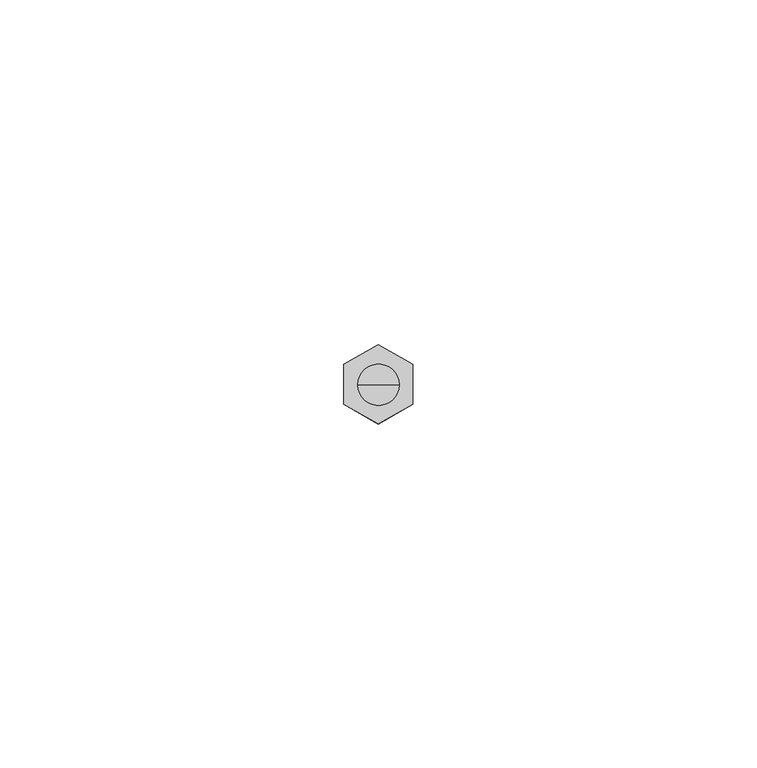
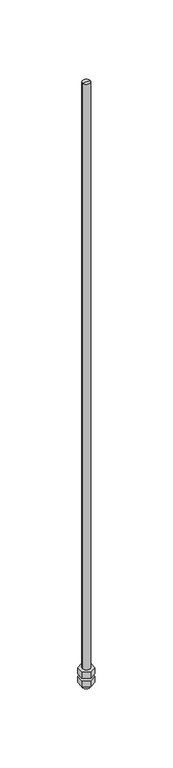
"""IFC4 building model written with IfcOpenShell, lengths in millimetres: proxy geometry, durlum_threaded_rod_M6 : durlum_threaded_rod_M6."""

from ifc_helpers import new_model, si_unit, frame, origin, origin_with_axes, place, context, project, spatial, polyline, circle_curve, outline, extrude, source, transform, mapped, element, save
from ifc_brep_helpers import plane_surface, cylinder_surface, advanced_brep


def generic_models_2a6b3d05(model_context):
    return source(origin(), model_context, "Body", "SolidModel", [
        extrude(outline(polyline([(5.0, 3.0421914), (5.0, -2.7313113), (0.0, -5.6180626), (-5.0, -2.7313113), (-5.0, 3.0421914), (0.0, 5.9289428), (5.0, 3.0421914)])), frame((0.0, 0.0, -7.0), z_axis=(0.0, 0.0, 1.0), x_axis=(1.0, 0.0, 0.0)), (0.0, 0.0, 1.0), 5.0),
        extrude(outline(polyline([(5.0, 3.0421914), (5.0, -2.7313113), (0.0, -5.6180626), (-5.0, -2.7313113), (-5.0, 3.0421914), (0.0, 5.9289428), (5.0, 3.0421914)])), origin_with_axes(), (0.0, 0.0, 1.0), 5.0),
        advanced_brep(
        [(-3.0, 0.0, 479.1726122), (3.0, 0.0, 479.1726122), (3.0, 0.0, -10.0), (-3.0, 0.0, -10.0), (0.0, 0.0, 479.1726122), (0.0, 0.0, -10.0)],
        [
            (0, 1, circle_curve(frame((0.0, 0.0, 479.1726122), z_axis=(0.0, 0.0, -1.0), x_axis=(1.0, 0.0, 0.0)), 3.0)),
            (1, 2),
            (2, 3, circle_curve(frame((0.0, 0.0, -10.0), z_axis=(0.0, 0.0, 1.0), x_axis=(1.0, 0.0, 0.0)), 3.0)),
            (3, 0),
            (1, 0, circle_curve(frame((0.0, 0.0, 479.1726122), z_axis=(0.0, 0.0, -1.0), x_axis=(1.0, 0.0, 0.0)), 3.0)),
            (3, 2, circle_curve(frame((0.0, 0.0, -10.0), z_axis=(0.0, 0.0, 1.0), x_axis=(1.0, 0.0, 0.0)), 3.0)),
            (4, 1),
            (0, 4),
            (2, 5),
            (5, 3),
        ],
        [
            cylinder_surface(frame((0.0, 0.0, -675.0), z_axis=(0.0, 0.0, 1.0), x_axis=(1.0, 0.0, 0.0)), 3.0),
            plane_surface(frame((0.0, 0.0, 479.1726122), z_axis=(0.0, 0.0, 1.0), x_axis=(1.0, 0.0, 0.0))),
            plane_surface(frame((0.0, 0.0, -10.0), z_axis=(0.0, 0.0, -1.0), x_axis=(1.0, 0.0, 0.0))),
        ],
        [
            (0, [[1, 2, 3, 4]]),
            (0, [[5, -4, 6, -2]]),
            (1, [[7, -1, 8]]),
            (1, [[-8, -5, -7]]),
            (2, [[-3, 9, 10]]),
            (2, [[-6, -10, -9]]),
        ],
    ),
    ])


if __name__ == "__main__":
    model = new_model("IFC4")
    model_context = context("Model", 3, world=origin())
    ifc_project = project(units=[si_unit("LENGTHUNIT", "METRE", prefix="MILLI")], contexts=[model_context])
    site = spatial("IfcSite", under=ifc_project)
    building = spatial("IfcBuilding", under=site)
    placement = place(None, origin())
    generic_models_shape = generic_models_2a6b3d05(model_context)
    element("IfcBuildingElementProxy", 1, Name="durlum_threaded_rod_M6 : durlum_threaded_rod_M6", ObjectType="durlum_threaded_rod_M6 : durlum_threaded_rod_M6", at=placement, inside=building, context=model_context, shape_type="MappedRepresentation", body=[
        mapped(generic_models_shape, transform((0.0, 0.0, 0.0), x_axis=(1.0, 0.0, 0.0), y_axis=(0.0, 1.0, 0.0), z_axis=(0.0, 0.0, 1.0))),
    ])
    save(model, "model.ifc")
